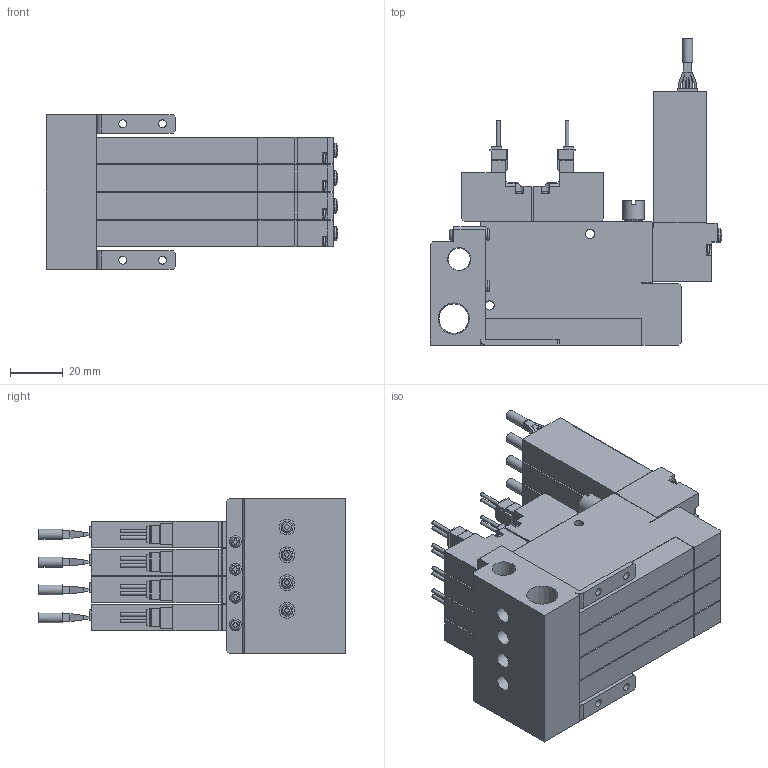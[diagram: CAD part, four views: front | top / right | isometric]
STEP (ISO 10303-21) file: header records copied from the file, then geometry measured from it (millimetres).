
FILE_DESCRIPTION(('STEP AP203'),'1');
FILE_NAME('V9C5SC404_3D.stp','2024-09-04T13:57:09',(' '),(' '),'Spatial InterOp 3D',' ',' ');
FILE_SCHEMA(('CONFIG_CONTROL_DESIGN'));
Length unit declared in the file: millimetre
Products named in the file (5): BSC1M※※V9C5SC404; Solenoid valve S; Pressure Sensor V9; Unit-C; BaseMC40R
Assembly tree (13 placements, depth 2):
  BSC1M※※V9C5SC404
    Solenoid valve S  x4
    Pressure Sensor V9  x4
    Unit-C  x4
    BaseMC40R
Bounding box: 110.35 x 115.8 x 58.5 mm (x, y, z)
Volume: 267182.6 mm3; surface area: 92611.4 mm2
Topology: 13 solids, 13 shells, 1755 faces, 4743 edges, 3126 vertices
Faces by surface type: plane 1351, cylinder 324, cone 32, sphere 24, torus 24
Full cylindrical faces by diameter (mm): 1.4 x16, 2.5 x8, 3 x20, 3.5 x32, 3.8 x4, 4 x4, 4.134 x8, 4.5 x12, 5.5 x8, 6 x4, 7 x8, 8 x4, 8.422 x1, 11.233 x1
Entity records: 19363 total; most frequent: CARTESIAN_POINT 4261, DIRECTION 3017, ORIENTED_EDGE 2946, EDGE_CURVE 1473, LINE 1037, VECTOR 1037, VERTEX_POINT 1030, AXIS2_PLACEMENT_3D 990
